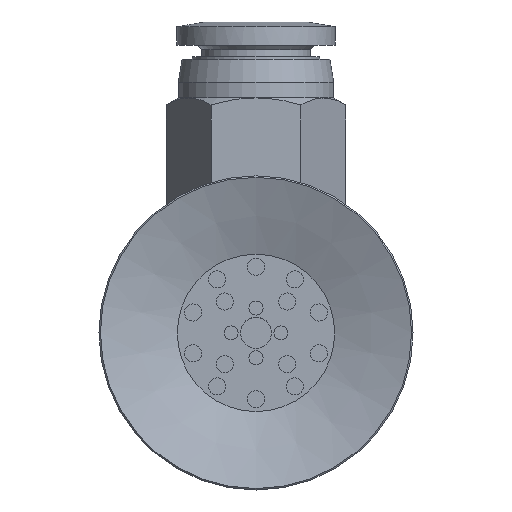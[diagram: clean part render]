
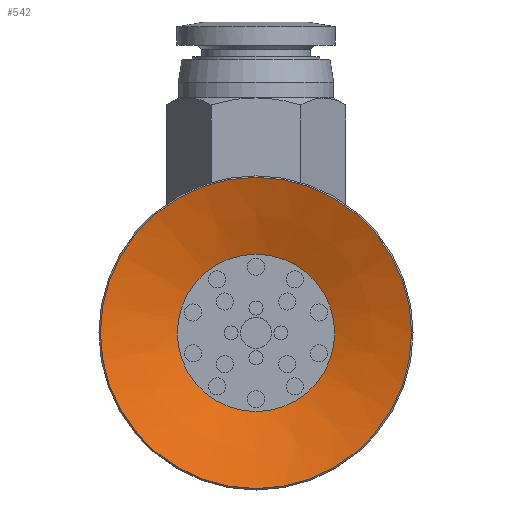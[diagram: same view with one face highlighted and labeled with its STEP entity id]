
A CAD part, front view. The second image highlights one B-rep face of the part: STEP entity #542.
In plain terms, the highlighted conical face has half-angle 70 degrees and reference radius 10 mm.
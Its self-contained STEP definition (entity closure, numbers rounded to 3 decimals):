
#542=ADVANCED_FACE('',(#860,#861),#862,.F.);
#860=FACE_BOUND('',#1361,.T.);
#861=FACE_OUTER_BOUND('',#1362,.T.);
#862=CONICAL_SURFACE('',#1363,10.0,1.222);
#1361=EDGE_LOOP('',(#2442));
#1362=EDGE_LOOP('',(#2443));
#1363=AXIS2_PLACEMENT_3D('',#2444,#2445,#2446);
#2442=ORIENTED_EDGE('',*,*,#3184,.T.);
#2443=ORIENTED_EDGE('',*,*,#3185,.F.);
#2444=CARTESIAN_POINT('',(0.0,0.,0.));
#2445=DIRECTION('',(0.0,0.,-1.0));
#2446=DIRECTION('',(0.0,1.0,0.));
#3184=EDGE_CURVE('',#3591,#3591,#3592,.T.);
#3185=EDGE_CURVE('',#3593,#3593,#3594,.T.);
#3591=VERTEX_POINT('',#4501);
#3592=CIRCLE('',#4502,5.055);
#3593=VERTEX_POINT('',#4503);
#3594=CIRCLE('',#4504,10.0);
#4501=CARTESIAN_POINT('',(0.0,-5.055,1.8));
#4502=AXIS2_PLACEMENT_3D('',#5307,#5308,#5309);
#4503=CARTESIAN_POINT('',(0.0,-10.0,0.));
#4504=AXIS2_PLACEMENT_3D('',#5310,#5311,#5312);
#5307=CARTESIAN_POINT('',(0.0,0.,1.8));
#5308=DIRECTION('',(0.0,0.,1.0));
#5309=DIRECTION('',(0.0,-1.0,0.));
#5310=CARTESIAN_POINT('',(0.0,0.,0.));
#5311=DIRECTION('',(0.0,0.,1.0));
#5312=DIRECTION('',(0.0,-1.0,0.));
